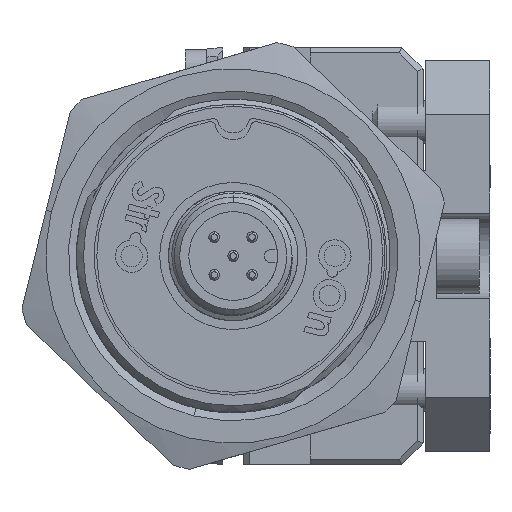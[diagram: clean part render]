
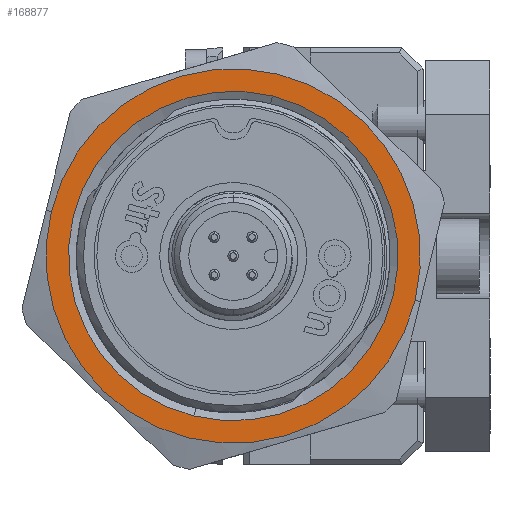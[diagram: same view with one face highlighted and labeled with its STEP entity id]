
A CAD part, front view. The second image highlights one B-rep face of the part: STEP entity #168877.
In plain terms, the highlighted planar face has unit normal (0, -1, 0) as drawn and (0, 0, 1) by its records, which use the part's own axes.
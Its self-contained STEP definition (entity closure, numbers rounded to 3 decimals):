
#17 = CARTESIAN_POINT ( 'NONE',  ( 0., 0., 5. ) ) ;
#1103 = VERTEX_POINT ( 'NONE', #213906 ) ;
#6082 = EDGE_LOOP ( 'NONE', ( #107878, #88873 ) ) ;
#20822 = EDGE_CURVE ( 'NONE', #1103, #156061, #248449, .T. ) ;
#33800 = EDGE_LOOP ( 'NONE', ( #45477, #200987 ) ) ;
#39244 = DIRECTION ( 'NONE',  ( -1., 0., 0. ) ) ;
#44778 = FACE_BOUND ( 'NONE', #33800, .T. ) ;
#45477 = ORIENTED_EDGE ( 'NONE', *, *, #20822, .T. ) ;
#46030 = DIRECTION ( 'NONE',  ( -1., 0., 0. ) ) ;
#66357 = AXIS2_PLACEMENT_3D ( 'NONE', #17, #250926, #252169 ) ;
#83263 = VERTEX_POINT ( 'NONE', #100881 ) ;
#88873 = ORIENTED_EDGE ( 'NONE', *, *, #151568, .F. ) ;
#100881 = CARTESIAN_POINT ( 'NONE',  ( -17.5, 0., 5. ) ) ;
#103666 = DIRECTION ( 'NONE',  ( 0., 0., -1. ) ) ;
#107878 = ORIENTED_EDGE ( 'NONE', *, *, #110768, .F. ) ;
#110768 = EDGE_CURVE ( 'NONE', #83263, #194776, #187372, .T. ) ;
#121265 = CIRCLE ( 'NONE', #244010, 15.4 ) ;
#122869 = PLANE ( 'NONE',  #168701 ) ;
#137967 = DIRECTION ( 'NONE',  ( 0., -1., 0. ) ) ;
#142082 = FACE_OUTER_BOUND ( 'NONE', #6082, .T. ) ;
#145692 = CARTESIAN_POINT ( 'NONE',  ( 0., 0., 5. ) ) ;
#151568 = EDGE_CURVE ( 'NONE', #194776, #83263, #176764, .T. ) ;
#154623 = DIRECTION ( 'NONE',  ( 0., 0., -1. ) ) ;
#156061 = VERTEX_POINT ( 'NONE', #201442 ) ;
#168701 = AXIS2_PLACEMENT_3D ( 'NONE', #200939, #103666, #46030 ) ;
#168702 = CARTESIAN_POINT ( 'NONE',  ( 17.5, 0., 5. ) ) ;
#168877 = ADVANCED_FACE ( 'NONE', ( #142082, #44778 ), #122869, .F. ) ;
#174806 = AXIS2_PLACEMENT_3D ( 'NONE', #235227, #154623, #137967 ) ;
#176764 = CIRCLE ( 'NONE', #66357, 17.5 ) ;
#187372 = CIRCLE ( 'NONE', #195590, 17.5 ) ;
#191411 = EDGE_CURVE ( 'NONE', #156061, #1103, #121265, .T. ) ;
#194776 = VERTEX_POINT ( 'NONE', #168702 ) ;
#195590 = AXIS2_PLACEMENT_3D ( 'NONE', #214601, #232539, #39244 ) ;
#200939 = CARTESIAN_POINT ( 'NONE',  ( -8.624, 25.763, 5. ) ) ;
#200987 = ORIENTED_EDGE ( 'NONE', *, *, #191411, .T. ) ;
#201442 = CARTESIAN_POINT ( 'NONE',  ( 0., 15.4, 5. ) ) ;
#202014 = DIRECTION ( 'NONE',  ( 0., -1., 0. ) ) ;
#213906 = CARTESIAN_POINT ( 'NONE',  ( 0., -15.4, 5. ) ) ;
#214601 = CARTESIAN_POINT ( 'NONE',  ( 0., 0., 5. ) ) ;
#219968 = DIRECTION ( 'NONE',  ( 0., 0., -1. ) ) ;
#232539 = DIRECTION ( 'NONE',  ( 0., 0., -1. ) ) ;
#235227 = CARTESIAN_POINT ( 'NONE',  ( 0., 0., 5. ) ) ;
#244010 = AXIS2_PLACEMENT_3D ( 'NONE', #145692, #219968, #202014 ) ;
#248449 = CIRCLE ( 'NONE', #174806, 15.4 ) ;
#250926 = DIRECTION ( 'NONE',  ( 0., 0., -1. ) ) ;
#252169 = DIRECTION ( 'NONE',  ( -1., 0., 0. ) ) ;
